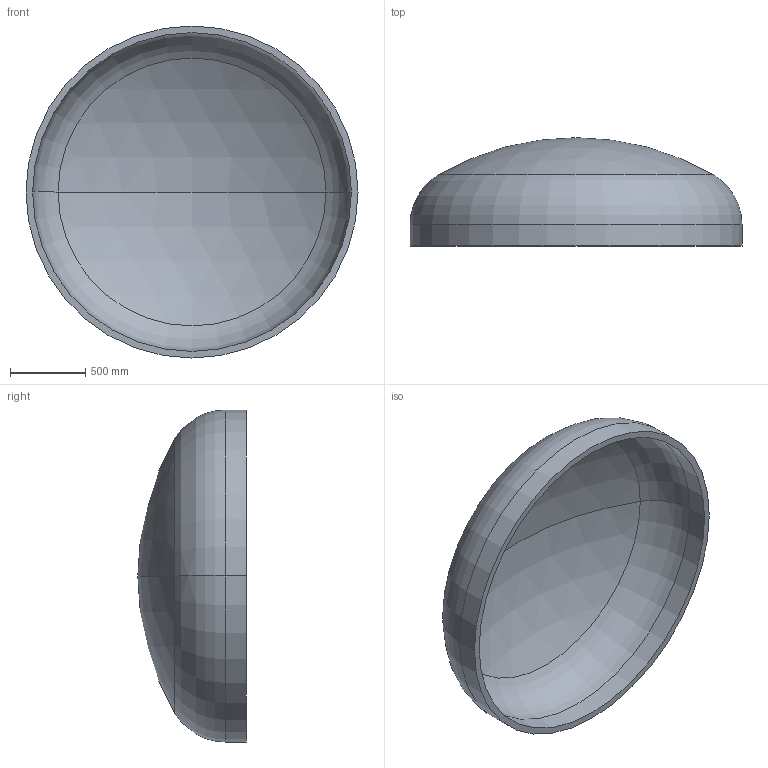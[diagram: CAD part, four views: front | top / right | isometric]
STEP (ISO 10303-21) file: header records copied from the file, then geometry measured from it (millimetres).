
FILE_DESCRIPTION (( 'STEP AP203' ), '1' );
FILE_NAME ('DIN 28013 Korbbogenform_-_Boden DIN 28013 - 2200 x 140 - I - s=44.step', '2016-07-01T14:37:21', ( '' ), ( '' ), 'SwSTEP 2.0', 'SolidWorks 2013', '' );
FILE_SCHEMA (( 'CONFIG_CONTROL_DESIGN' ));
Length unit declared in the file: millimetre
Products named in the file (1): DIN 28013 Korbbogenform_-_Boden DIN 28013 - 2200 x 140 - I - s=44
Bounding box: 2200 x 717.73 x 2200 mm (x, y, z)
Volume: 267512726.6 mm3; surface area: 12461744.3 mm2
Topology: 1 solids, 1 shells, 13 faces, 24 edges, 14 vertices
Faces by surface type: torus 4, cylinder 4, sphere 4, plane 1
Entity records: 407 total; most frequent: DIRECTION 72, CARTESIAN_POINT 52, ORIENTED_EDGE 48, AXIS2_PLACEMENT_3D 34, EDGE_CURVE 24, CIRCLE 20, EDGE_LOOP 14, VERTEX_POINT 14
